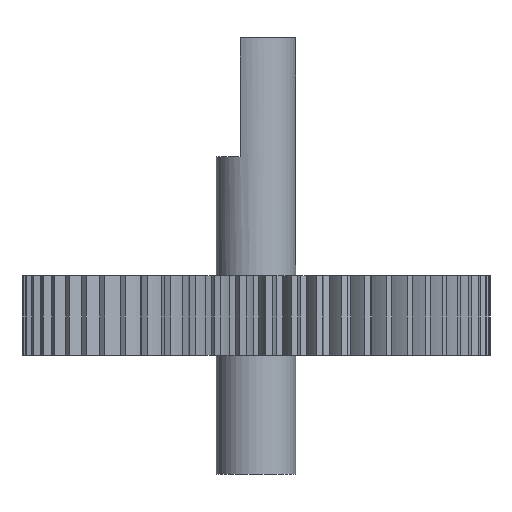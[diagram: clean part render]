
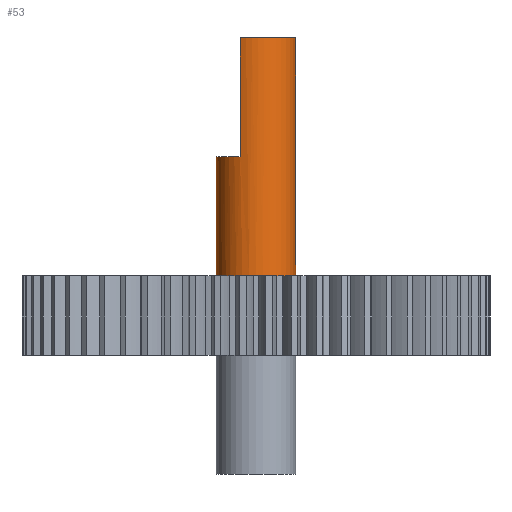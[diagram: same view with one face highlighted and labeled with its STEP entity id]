
A CAD part, front view. The second image highlights one B-rep face of the part: STEP entity #53.
In plain terms, the highlighted cylindrical face has radius 10 mm (diameter 20 mm), a full revolution.
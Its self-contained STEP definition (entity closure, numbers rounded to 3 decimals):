
#53=ADVANCED_FACE('',(#289,#291),#293,.T.);
#289=FACE_BOUND('',#290,.T.);
#290=EDGE_LOOP('',(#1949,#1950,#1951,#1952,#1953));
#291=FACE_OUTER_BOUND('',#292,.T.);
#292=EDGE_LOOP('',(#1954));
#293=CYLINDRICAL_SURFACE('',#294,10.);
#294=AXIS2_PLACEMENT_3D('',#295,#296,#297);
#295=CARTESIAN_POINT('',(0.,0.,-30.));
#296=DIRECTION('',(0.,0.,1.));
#297=DIRECTION('',(0.5,-0.866,0.));
#1949=ORIENTED_EDGE('',*,*,#3337,.F.);
#1950=ORIENTED_EDGE('',*,*,#3338,.F.);
#1951=ORIENTED_EDGE('',*,*,#3339,.F.);
#1952=ORIENTED_EDGE('',*,*,#3340,.T.);
#1953=ORIENTED_EDGE('',*,*,#3341,.F.);
#1954=ORIENTED_EDGE('',*,*,#3342,.T.);
#3337=EDGE_CURVE('',#4031,#4032,#4033,.T.);
#3338=EDGE_CURVE('',#4034,#4031,#4035,.T.);
#3339=EDGE_CURVE('',#4036,#4034,#4037,.T.);
#3340=EDGE_CURVE('',#4036,#4038,#4039,.T.);
#3341=EDGE_CURVE('',#4032,#4038,#4040,.T.);
#3342=EDGE_CURVE('',#4041,#4041,#4042,.T.);
#4031=VERTEX_POINT('',#5189);
#4032=VERTEX_POINT('',#5190);
#4033=CIRCLE('',#5191,10.);
#4034=VERTEX_POINT('',#5195);
#4035=LINE('',#5196,#5197);
#4036=VERTEX_POINT('',#5199);
#4037=CIRCLE('',#5200,10.);
#4038=VERTEX_POINT('',#5204);
#4039=LINE('',#5205,#5206);
#4040=CIRCLE('',#5208,10.);
#4041=VERTEX_POINT('',#5212);
#4042=CIRCLE('',#5213,10.);
#5189=CARTESIAN_POINT('',(-4.,-9.165,80.));
#5190=CARTESIAN_POINT('',(5.,-8.66,80.));
#5191=AXIS2_PLACEMENT_3D('',#5192,#5193,#5194);
#5192=CARTESIAN_POINT('',(0.,0.,80.));
#5193=DIRECTION('',(0.,0.,1.));
#5194=DIRECTION('',(-0.4,-0.917,0.));
#5195=CARTESIAN_POINT('',(-4.,-9.165,50.));
#5196=CARTESIAN_POINT('',(-4.,-9.165,50.));
#5197=VECTOR('',#5198,1.);
#5198=DIRECTION('',(0.,0.,1.));
#5199=CARTESIAN_POINT('',(-4.,9.165,50.));
#5200=AXIS2_PLACEMENT_3D('',#5201,#5202,#5203);
#5201=CARTESIAN_POINT('',(0.,0.,50.));
#5202=DIRECTION('',(0.,0.,1.));
#5203=DIRECTION('',(-0.4,0.917,0.));
#5204=CARTESIAN_POINT('',(-4.,9.165,80.));
#5205=CARTESIAN_POINT('',(-4.,9.165,50.));
#5206=VECTOR('',#5207,1.);
#5207=DIRECTION('',(0.,0.,1.));
#5208=AXIS2_PLACEMENT_3D('',#5209,#5210,#5211);
#5209=CARTESIAN_POINT('',(0.,0.,80.));
#5210=DIRECTION('',(0.,0.,1.));
#5211=DIRECTION('',(0.5,-0.866,0.));
#5212=CARTESIAN_POINT('',(5.,-8.66,20.));
#5213=AXIS2_PLACEMENT_3D('',#5214,#5215,#5216);
#5214=CARTESIAN_POINT('',(0.,0.,20.));
#5215=DIRECTION('',(0.,0.,1.));
#5216=DIRECTION('',(0.5,-0.866,0.));
